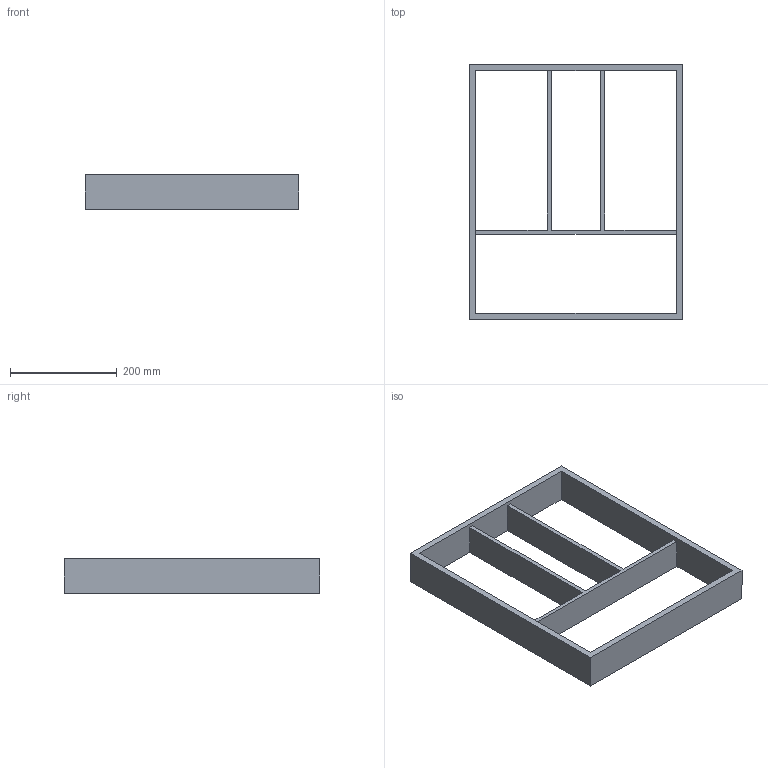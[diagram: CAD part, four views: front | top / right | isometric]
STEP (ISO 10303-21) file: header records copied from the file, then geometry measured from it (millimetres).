
FILE_DESCRIPTION (( 'STEP AP214' ), '1' );
FILE_NAME ('Vario Multi NL500_ZE400_16 mm_Buche.step', '2010-10-07T06:24:23', ( 'grass' ), ( '' ), 'SwSTEP 2.0', 'SolidWorks 2010', '' );
FILE_SCHEMA (( 'AUTOMOTIVE_DESIGN' ));
Length unit declared in the file: millimetre
Products named in the file (1): Vario Multi NL500_ZE400_16 mm_Buche
Bounding box: 400 x 479 x 65 mm (x, y, z)
Volume: 1777761.6 mm3; surface area: 387172 mm2
Topology: 1 solids, 1 shells, 19 faces, 60 edges, 40 vertices
Faces by surface type: plane 19
Entity records: 704 total; most frequent: ORIENTED_EDGE 120, CARTESIAN_POINT 120, DIRECTION 100, EDGE_CURVE 60, LINE 60, VECTOR 60, VERTEX_POINT 40, EDGE_LOOP 24
